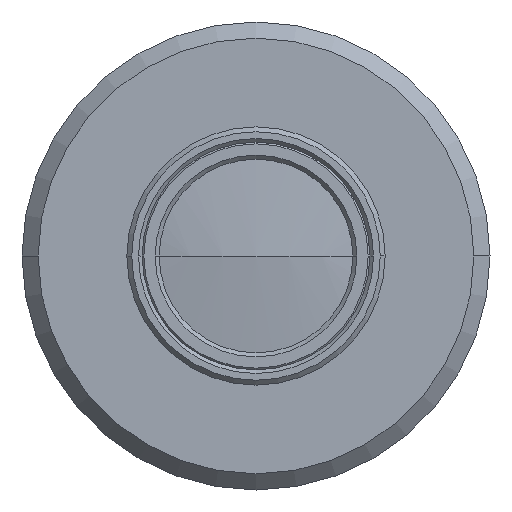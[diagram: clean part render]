
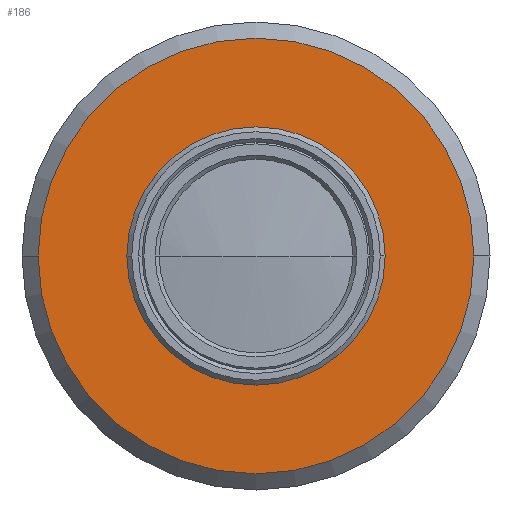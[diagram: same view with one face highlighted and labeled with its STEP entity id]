
A CAD part, left-side view. The second image highlights one B-rep face of the part: STEP entity #186.
In plain terms, the highlighted planar face has unit normal (-1, 0, 0).
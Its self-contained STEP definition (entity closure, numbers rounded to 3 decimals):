
#52 = VERTEX_POINT ( 'NONE', #725 ) ;
#186 = ADVANCED_FACE ( 'NONE', ( #1603, #617 ), #1217, .T. ) ;
#247 = DIRECTION ( 'NONE',  ( 0., -1., 0. ) ) ;
#386 = CARTESIAN_POINT ( 'NONE',  ( 61.926, -8., 0. ) ) ;
#417 = DIRECTION ( 'NONE',  ( 0., 1., 0. ) ) ;
#428 = ORIENTED_EDGE ( 'NONE', *, *, #808, .T. ) ;
#527 = CARTESIAN_POINT ( 'NONE',  ( 61.926, 13.5, 0. ) ) ;
#597 = DIRECTION ( 'NONE',  ( 1., 0., 0. ) ) ;
#606 = ORIENTED_EDGE ( 'NONE', *, *, #1296, .F. ) ;
#617 = FACE_OUTER_BOUND ( 'NONE', #1916, .T. ) ;
#653 = CARTESIAN_POINT ( 'NONE',  ( 61.926, 0., 0. ) ) ;
#658 = AXIS2_PLACEMENT_3D ( 'NONE', #653, #2189, #417 ) ;
#725 = CARTESIAN_POINT ( 'NONE',  ( 61.926, -13.5, 0. ) ) ;
#738 = DIRECTION ( 'NONE',  ( 0., 1., 0. ) ) ;
#757 = CIRCLE ( 'NONE', #1060, 8. ) ;
#808 = EDGE_CURVE ( 'NONE', #2560, #1062, #2403, .T. ) ;
#887 = ORIENTED_EDGE ( 'NONE', *, *, #1232, .T. ) ;
#1060 = AXIS2_PLACEMENT_3D ( 'NONE', #2396, #2024, #2384 ) ;
#1062 = VERTEX_POINT ( 'NONE', #386 ) ;
#1177 = EDGE_LOOP ( 'NONE', ( #428, #887 ) ) ;
#1217 = PLANE ( 'NONE',  #1890 ) ;
#1232 = EDGE_CURVE ( 'NONE', #1062, #2560, #757, .T. ) ;
#1244 = CIRCLE ( 'NONE', #658, 13.5 ) ;
#1296 = EDGE_CURVE ( 'NONE', #52, #2213, #2134, .T. ) ;
#1360 = CARTESIAN_POINT ( 'NONE',  ( 61.926, 0., 0. ) ) ;
#1603 = FACE_BOUND ( 'NONE', #1177, .T. ) ;
#1689 = DIRECTION ( 'NONE',  ( 1., 0., 0. ) ) ;
#1694 = EDGE_CURVE ( 'NONE', #2213, #52, #1244, .T. ) ;
#1880 = DIRECTION ( 'NONE',  ( 0., 1., 0. ) ) ;
#1890 = AXIS2_PLACEMENT_3D ( 'NONE', #2197, #2011, #247 ) ;
#1916 = EDGE_LOOP ( 'NONE', ( #2101, #606 ) ) ;
#1928 = CARTESIAN_POINT ( 'NONE',  ( 61.926, 0., 0. ) ) ;
#2011 = DIRECTION ( 'NONE',  ( -1., 0., 0. ) ) ;
#2024 = DIRECTION ( 'NONE',  ( 1., 0., 0. ) ) ;
#2053 = AXIS2_PLACEMENT_3D ( 'NONE', #1360, #597, #738 ) ;
#2101 = ORIENTED_EDGE ( 'NONE', *, *, #1694, .F. ) ;
#2128 = AXIS2_PLACEMENT_3D ( 'NONE', #1928, #1689, #1880 ) ;
#2134 = CIRCLE ( 'NONE', #2053, 13.5 ) ;
#2189 = DIRECTION ( 'NONE',  ( 1., 0., 0. ) ) ;
#2197 = CARTESIAN_POINT ( 'NONE',  ( 61.926, 8., 0. ) ) ;
#2213 = VERTEX_POINT ( 'NONE', #527 ) ;
#2248 = CARTESIAN_POINT ( 'NONE',  ( 61.926, 8., 0. ) ) ;
#2384 = DIRECTION ( 'NONE',  ( 0., 1., 0. ) ) ;
#2396 = CARTESIAN_POINT ( 'NONE',  ( 61.926, 0., 0. ) ) ;
#2403 = CIRCLE ( 'NONE', #2128, 8. ) ;
#2560 = VERTEX_POINT ( 'NONE', #2248 ) ;
